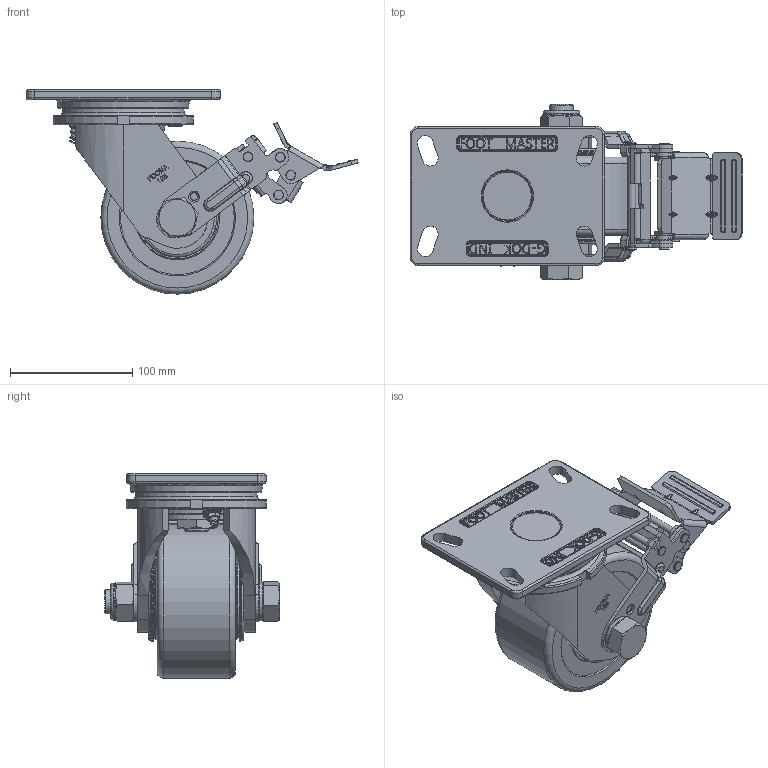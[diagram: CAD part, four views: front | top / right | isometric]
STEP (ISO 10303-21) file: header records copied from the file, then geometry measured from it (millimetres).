
FILE_DESCRIPTION(/* description */ (''),/* implementation_level */ '2;1');
FILE_NAME(/* name */ '\\192.168.10.38\지덕공유\1.기술연구소\손동원\GF-SERIES\3D\GF-125-BSF-MCD.stp',/* time_stamp */ '2023-07-25T14:00:16+09:00',/* author */ ('admin'),/* organization */ (''),/* preprocessor_version */ 'ST-DEVELOPER v18.1',/* originating_system */ 'Autodesk Inventor 2021',/* authorisation */ '');
FILE_SCHEMA (('AUTOMOTIVE_DESIGN { 1 0 10303 214 3 1 1 }'));
Length unit declared in the file: millimetre
Products named in the file (1): GF-125-BSF-MCD
Bounding box: 271.35 x 143 x 167 mm (x, y, z)
Volume: 1397776.5 mm3; surface area: 201548.8 mm2
Topology: 7 solids, 7 shells, 2065 faces, 5492 edges, 3481 vertices
Faces by surface type: plane 742, bspline 561, cylinder 539, torus 142, cone 65, sphere 16
Full cylindrical faces by diameter (mm): 4 x4, 6 x5, 6.2 x18, 7 x2, 8 x8, 9.7 x2, 10 x2, 20 x4, 20.2 x4, 24.9 x2, 30 x1, 32.334 x2, 39.666 x2, 59 x1, 64.519 x2, 125 x1
Entity records: 75096 total; most frequent: CARTESIAN_POINT 26094, ORIENTED_EDGE 10928, DIRECTION 9225, EDGE_CURVE 5464, VERTEX_POINT 3483, AXIS2_PLACEMENT_3D 3318, LINE 2589, VECTOR 2589
